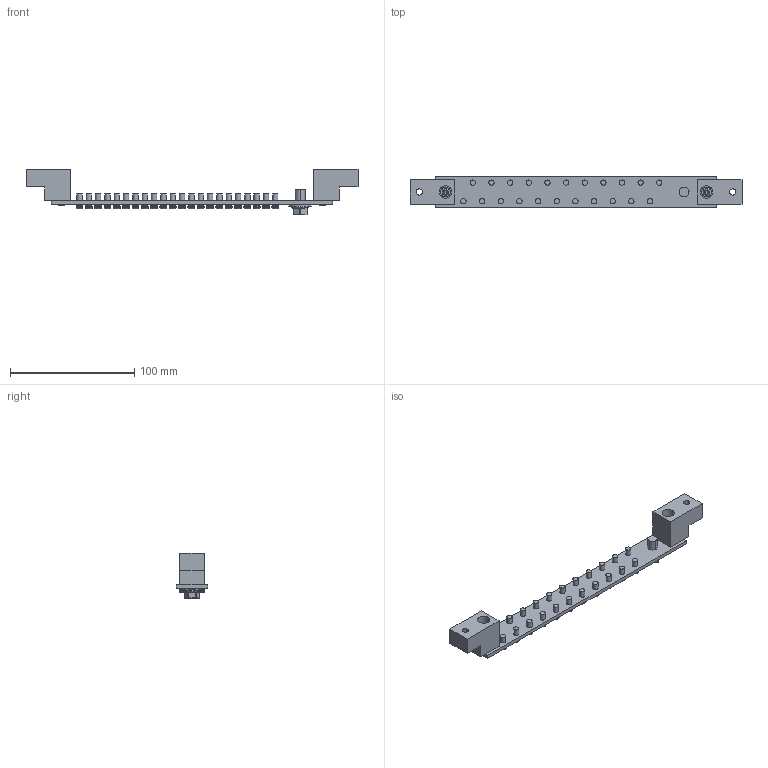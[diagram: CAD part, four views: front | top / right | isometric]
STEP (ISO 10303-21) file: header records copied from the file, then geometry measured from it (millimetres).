
FILE_DESCRIPTION(('Creo Elements/Direct Modeling STEP Export'),'2;1');
FILE_NAME('23N.stp','2025-07-23T16:06:07',(''),(''),'PTC Creo Elements/Direct Modeling STEP processor for AP214 (Solid Model)','PTC Creo Elements/Direct Modeling 19.0 09-May-2014 (C) Parametric Technology GmbH','');
FILE_SCHEMA(('AUTOMOTIVE_DESIGN { 1 0 10303 214 1 1 1 1 }'));
Length unit declared in the file: millimetre
Products named in the file (18): USER_LIBRARY-SAN_ZU_HE_LUO_S_1.prt; quilt.1; quilt.2; quilt.3; M5.1.1.1.1.1.1.1.1.2; a1; SCREW_1_1.PRT; SCREW_1_2.PRT; SCREW_1.ASM; SCREW_0723.stp; M5.1.1.1.1.1.1.1.1.1.1.1.1.1; CU; HOLD; 23N
Assembly tree (40 placements, depth 4):
  23N
    HOLD  x2
    M5.1.1.1.1.1.1.1.1.2  x11
      quilt.3
      quilt.2
      quilt.1
      USER_LIBRARY-SAN_ZU_HE_LUO_S_1.prt
    CU
    M5.1.1.1.1.1.1.1.1.1.1.1.1.1  x2
      quilt.3
      quilt.2
      quilt.1
      USER_LIBRARY-SAN_ZU_HE_LUO_S_1.prt
    SCREW_0723.stp
      SCREW_1.ASM
        SCREW_1_2.PRT
        SCREW_1_1.PRT
    a1
      M5.1.1.1.1.1.1.1.1.2  x11
        quilt.3
        quilt.2
        quilt.1
        USER_LIBRARY-SAN_ZU_HE_LUO_S_1.prt
Bounding box: 267 x 25 x 36.2 mm (x, y, z)
Volume: 46905.8 mm3; surface area: 33352.3 mm2
Topology: 77 solids, 77 shells, 1196 faces, 2958 edges, 1948 vertices
Faces by surface type: plane 652, cylinder 372, torus 100, bspline 72
Entity records: 11007 total; most frequent: CARTESIAN_POINT 4690, ORIENTED_EDGE 1080, DIRECTION 1036, EDGE_CURVE 540, AXIS2_PLACEMENT_3D 388, VERTEX_POINT 358, EDGE_LOOP 278, VECTOR 260
